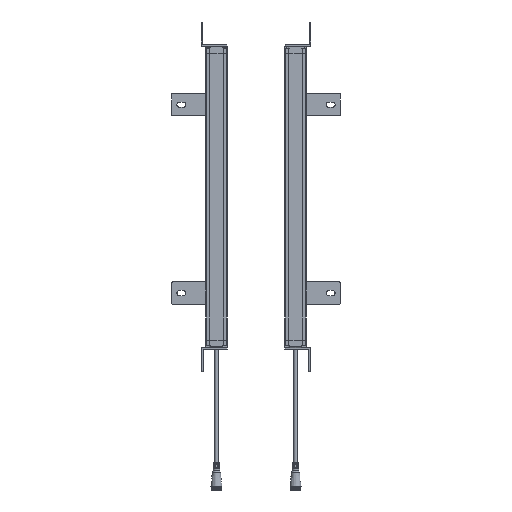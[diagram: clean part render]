
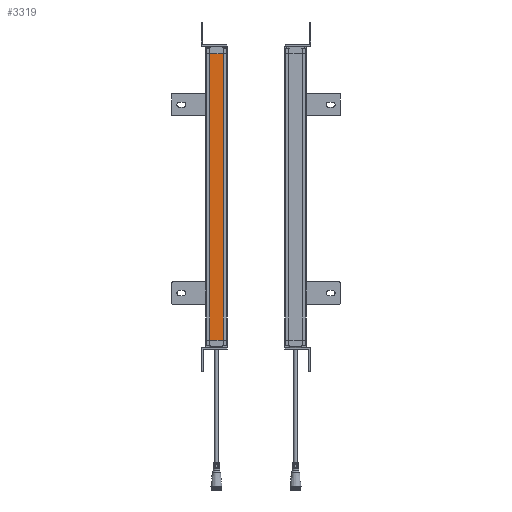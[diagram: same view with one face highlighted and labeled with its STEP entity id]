
A CAD part, left-side view. The second image highlights one B-rep face of the part: STEP entity #3319.
In plain terms, the highlighted planar face has unit normal (-1, 0, 0).
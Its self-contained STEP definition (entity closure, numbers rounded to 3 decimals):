
#1795=FACE_OUTER_BOUND('',#5986,.T.);
#3319=ADVANCED_FACE('',(#1795),#4749,.T.);
#4749=PLANE('',#29857);
#5986=EDGE_LOOP('',(#9184,#9185,#9186,#9187));
#9184=ORIENTED_EDGE('',*,*,#19383,.F.);
#9185=ORIENTED_EDGE('',*,*,#19072,.T.);
#9186=ORIENTED_EDGE('',*,*,#19385,.T.);
#9187=ORIENTED_EDGE('',*,*,#19386,.F.);
#16145=VERTEX_POINT('',#43699);
#16146=VERTEX_POINT('',#43701);
#16357=VERTEX_POINT('',#44323);
#16358=VERTEX_POINT('',#44327);
#19072=EDGE_CURVE('',#16146,#16145,#24663,.T.);
#19383=EDGE_CURVE('',#16146,#16357,#24884,.T.);
#19385=EDGE_CURVE('',#16145,#16358,#24886,.T.);
#19386=EDGE_CURVE('',#16357,#16358,#24887,.T.);
#24663=LINE('',#43700,#27142);
#24884=LINE('',#44322,#27363);
#24886=LINE('',#44326,#27365);
#24887=LINE('',#44328,#27366);
#27142=VECTOR('',#33404,1.);
#27363=VECTOR('',#34005,1.);
#27365=VECTOR('',#34009,1.);
#27366=VECTOR('',#34010,1.);
#29857=AXIS2_PLACEMENT_3D('',#44329,#34011,#34012);
#33404=DIRECTION('',(0.,1.,0.));
#34005=DIRECTION('',(0.,0.,-1.));
#34009=DIRECTION('',(0.,0.,-1.));
#34010=DIRECTION('',(0.,1.,0.));
#34011=DIRECTION('',(-1.,0.,0.));
#34012=DIRECTION('',(0.,1.,0.));
#43699=CARTESIAN_POINT('',(50.4,-5.5,338.059));
#43700=CARTESIAN_POINT('',(50.4,-5.5,338.059));
#43701=CARTESIAN_POINT('',(50.4,-23.5,338.059));
#44322=CARTESIAN_POINT('',(50.4,-23.5,103.059));
#44323=CARTESIAN_POINT('',(50.4,-23.5,-41.941));
#44326=CARTESIAN_POINT('',(50.4,-5.5,103.059));
#44327=CARTESIAN_POINT('',(50.4,-5.5,-41.941));
#44328=CARTESIAN_POINT('',(50.4,-23.5,-41.941));
#44329=CARTESIAN_POINT('',(50.4,-5.5,-61.941));
